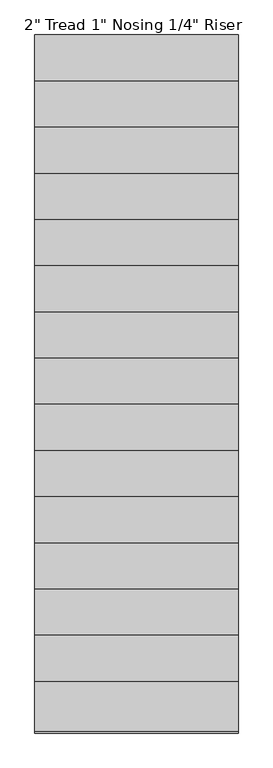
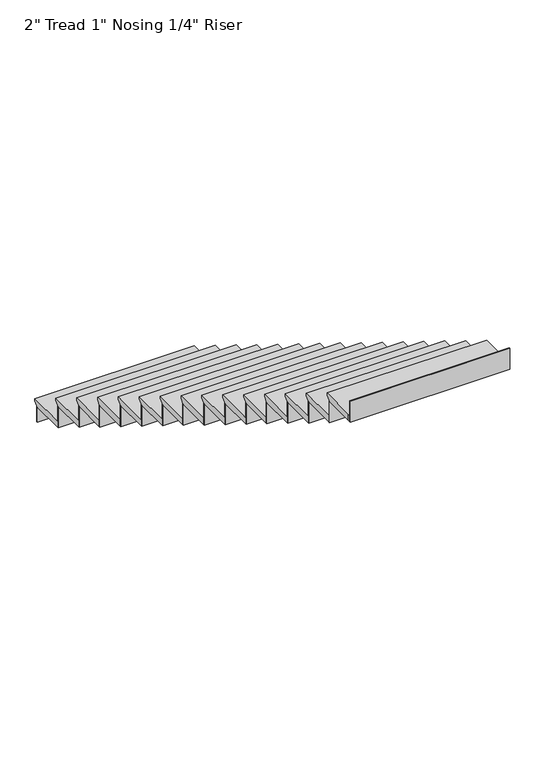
"""IFC4 building model written with IfcOpenShell, lengths in millimetres: stair flight geometry."""

from ifc_helpers import new_model, si_unit, origin, place, context, project, spatial, faceted_brep, source, transform, mapped, element, save


def stair_flight_ed8aa051(model_context):
    return source(origin(), model_context, "Body", "Brep", [
        faceted_brep([(16217.9060672, 6197.5997725, 4624.07), (16217.9060672, 6197.5997725, 4643.12), (17449.8060671, 6197.5997725, 4643.12), (17449.8060671, 6197.5997725, 4624.07), (16217.9060672, 6172.1997725, 4598.67), (17449.8060671, 6172.1997725, 4598.67), (16217.9060672, 5892.7997725, 4643.12), (17449.8060671, 5892.7997725, 4643.12), (17449.8060671, 6172.1997725, 4592.32), (17449.8060671, 5892.7997725, 4592.32), (16217.9060672, 5892.7997725, 4592.32), (16217.9060672, 6172.1997725, 4592.32)], [[[0, 1, 2, 3]], [[4, 0, 3, 5]], [[2, 1, 6, 7]], [[8, 9, 10, 11]], [[2, 7, 9, 8, 5, 3]], [[8, 11, 4, 5]], [[6, 1, 0, 4, 11, 10]], [[7, 6, 10, 9]]]),
        faceted_brep([(16217.9060672, 6172.1997725, 4592.32), (16217.9060672, 6172.1997725, 4470.4), (16217.9060672, 6165.8497725, 4470.4), (16217.9060672, 6165.8497725, 4592.32), (17449.8060671, 6172.1997725, 4592.32), (17449.8060671, 6165.8497725, 4592.32), (17449.8060671, 6165.8497725, 4470.4), (17449.8060671, 6172.1997725, 4470.4)], [[[0, 1, 2, 3]], [[4, 5, 6, 7]], [[1, 0, 4, 7]], [[2, 1, 7, 6]], [[3, 2, 6, 5]], [[0, 3, 5, 4]]]),
        faceted_brep([(16217.9060672, 5892.7997725, 4765.04), (16217.9060672, 5892.7997725, 4592.32), (16217.9060672, 5886.4497725, 4592.32), (16217.9060672, 5886.4497725, 4765.04), (17449.8060671, 5892.7997725, 4765.04), (17449.8060671, 5886.4497725, 4765.04), (17449.8060671, 5886.4497725, 4592.32), (17449.8060671, 5892.7997725, 4592.32)], [[[0, 1, 2, 3]], [[4, 5, 6, 7]], [[1, 0, 4, 7]], [[2, 1, 7, 6]], [[3, 2, 6, 5]], [[0, 3, 5, 4]]]),
        faceted_brep([(17449.8060671, 5918.1997725, 4815.84), (16217.9060672, 5918.1997725, 4815.84), (16217.9060672, 5613.3997725, 4815.84), (17449.8060671, 5613.3997725, 4815.84), (17449.8060671, 5892.7997725, 4765.04), (17449.8060671, 5613.3997725, 4765.04), (16217.9060672, 5613.3997725, 4765.04), (16217.9060672, 5892.7997725, 4765.04), (17449.8060671, 5892.7997725, 4771.39), (17449.8060671, 5918.1997725, 4796.79), (16217.9060672, 5892.7997725, 4771.39), (16217.9060672, 5918.1997725, 4796.79)], [[[0, 1, 2, 3]], [[4, 5, 6, 7]], [[0, 3, 5, 4, 8, 9]], [[4, 7, 10, 8]], [[2, 1, 11, 10, 7, 6]], [[3, 2, 6, 5]], [[11, 1, 0, 9]], [[10, 11, 9, 8]]]),
        faceted_brep([(16217.9060672, 5613.3997725, 4937.76), (16217.9060672, 5613.3997725, 4765.04), (16217.9060672, 5607.0497725, 4765.04), (16217.9060672, 5607.0497725, 4937.76), (17449.8060671, 5613.3997725, 4937.76), (17449.8060671, 5607.0497725, 4937.76), (17449.8060671, 5607.0497725, 4765.04), (17449.8060671, 5613.3997725, 4765.04)], [[[0, 1, 2, 3]], [[4, 5, 6, 7]], [[1, 0, 4, 7]], [[2, 1, 7, 6]], [[3, 2, 6, 5]], [[0, 3, 5, 4]]]),
        faceted_brep([(17449.8060671, 5638.7997725, 4988.56), (16217.9060672, 5638.7997725, 4988.56), (16217.9060672, 5333.9997725, 4988.56), (17449.8060671, 5333.9997725, 4988.56), (17449.8060671, 5613.3997725, 4937.76), (17449.8060671, 5333.9997725, 4937.76), (16217.9060672, 5333.9997725, 4937.76), (16217.9060672, 5613.3997725, 4937.76), (17449.8060671, 5613.3997725, 4944.11), (17449.8060671, 5638.7997725, 4969.51), (16217.9060672, 5613.3997725, 4944.11), (16217.9060672, 5638.7997725, 4969.51)], [[[0, 1, 2, 3]], [[4, 5, 6, 7]], [[0, 3, 5, 4, 8, 9]], [[4, 7, 10, 8]], [[2, 1, 11, 10, 7, 6]], [[3, 2, 6, 5]], [[11, 1, 0, 9]], [[10, 11, 9, 8]]]),
        faceted_brep([(16217.9060672, 5333.9997725, 5110.48), (16217.9060672, 5333.9997725, 4937.76), (16217.9060672, 5327.6497725, 4937.76), (16217.9060672, 5327.6497725, 5110.48), (17449.8060671, 5333.9997725, 5110.48), (17449.8060671, 5327.6497725, 5110.48), (17449.8060671, 5327.6497725, 4937.76), (17449.8060671, 5333.9997725, 4937.76)], [[[0, 1, 2, 3]], [[4, 5, 6, 7]], [[1, 0, 4, 7]], [[2, 1, 7, 6]], [[3, 2, 6, 5]], [[0, 3, 5, 4]]]),
        faceted_brep([(17449.8060671, 5359.3997725, 5161.28), (16217.9060672, 5359.3997725, 5161.28), (16217.9060672, 5054.5997725, 5161.28), (17449.8060671, 5054.5997725, 5161.28), (17449.8060671, 5333.9997725, 5110.48), (17449.8060671, 5054.5997725, 5110.48), (16217.9060672, 5054.5997725, 5110.48), (16217.9060672, 5333.9997725, 5110.48), (17449.8060671, 5333.9997725, 5116.83), (17449.8060671, 5359.3997725, 5142.23), (16217.9060672, 5333.9997725, 5116.83), (16217.9060672, 5359.3997725, 5142.23)], [[[0, 1, 2, 3]], [[4, 5, 6, 7]], [[0, 3, 5, 4, 8, 9]], [[4, 7, 10, 8]], [[2, 1, 11, 10, 7, 6]], [[3, 2, 6, 5]], [[11, 1, 0, 9]], [[10, 11, 9, 8]]]),
        faceted_brep([(16217.9060672, 5054.5997725, 5283.2), (16217.9060672, 5054.5997725, 5110.48), (16217.9060672, 5048.2497725, 5110.48), (16217.9060672, 5048.2497725, 5283.2), (17449.8060671, 5054.5997725, 5283.2), (17449.8060671, 5048.2497725, 5283.2), (17449.8060671, 5048.2497725, 5110.48), (17449.8060671, 5054.5997725, 5110.48)], [[[0, 1, 2, 3]], [[4, 5, 6, 7]], [[1, 0, 4, 7]], [[2, 1, 7, 6]], [[3, 2, 6, 5]], [[0, 3, 5, 4]]]),
        faceted_brep([(17449.8060671, 5079.9997725, 5334.0), (16217.9060672, 5079.9997725, 5334.0), (16217.9060672, 4775.1997725, 5334.0), (17449.8060671, 4775.1997725, 5334.0), (17449.8060671, 5054.5997725, 5283.2), (17449.8060671, 4775.1997725, 5283.2), (16217.9060672, 4775.1997725, 5283.2), (16217.9060672, 5054.5997725, 5283.2), (17449.8060671, 5054.5997725, 5289.55), (17449.8060671, 5079.9997725, 5314.95), (16217.9060672, 5054.5997725, 5289.55), (16217.9060672, 5079.9997725, 5314.95)], [[[0, 1, 2, 3]], [[4, 5, 6, 7]], [[0, 3, 5, 4, 8, 9]], [[4, 7, 10, 8]], [[2, 1, 11, 10, 7, 6]], [[3, 2, 6, 5]], [[11, 1, 0, 9]], [[10, 11, 9, 8]]]),
        faceted_brep([(16217.9060672, 4775.1997725, 5455.92), (16217.9060672, 4775.1997725, 5283.2), (16217.9060672, 4768.8497725, 5283.2), (16217.9060672, 4768.8497725, 5455.92), (17449.8060671, 4775.1997725, 5455.92), (17449.8060671, 4768.8497725, 5455.92), (17449.8060671, 4768.8497725, 5283.2), (17449.8060671, 4775.1997725, 5283.2)], [[[0, 1, 2, 3]], [[4, 5, 6, 7]], [[1, 0, 4, 7]], [[2, 1, 7, 6]], [[3, 2, 6, 5]], [[0, 3, 5, 4]]]),
        faceted_brep([(17449.8060671, 4800.5997725, 5506.72), (16217.9060672, 4800.5997725, 5506.72), (16217.9060672, 4495.7997725, 5506.72), (17449.8060671, 4495.7997725, 5506.72), (17449.8060671, 4775.1997725, 5455.92), (17449.8060671, 4495.7997725, 5455.92), (16217.9060672, 4495.7997725, 5455.92), (16217.9060672, 4775.1997725, 5455.92), (17449.8060671, 4775.1997725, 5462.27), (17449.8060671, 4800.5997725, 5487.67), (16217.9060672, 4775.1997725, 5462.27), (16217.9060672, 4800.5997725, 5487.67)], [[[0, 1, 2, 3]], [[4, 5, 6, 7]], [[0, 3, 5, 4, 8, 9]], [[4, 7, 10, 8]], [[2, 1, 11, 10, 7, 6]], [[3, 2, 6, 5]], [[11, 1, 0, 9]], [[10, 11, 9, 8]]]),
        faceted_brep([(16217.9060672, 4495.7997725, 5628.64), (16217.9060672, 4495.7997725, 5455.92), (16217.9060672, 4489.4497725, 5455.92), (16217.9060672, 4489.4497725, 5628.64), (17449.8060671, 4495.7997725, 5628.64), (17449.8060671, 4489.4497725, 5628.64), (17449.8060671, 4489.4497725, 5455.92), (17449.8060671, 4495.7997725, 5455.92)], [[[0, 1, 2, 3]], [[4, 5, 6, 7]], [[1, 0, 4, 7]], [[2, 1, 7, 6]], [[3, 2, 6, 5]], [[0, 3, 5, 4]]]),
        faceted_brep([(17449.8060671, 4521.1997725, 5679.44), (16217.9060672, 4521.1997725, 5679.44), (16217.9060672, 4216.3997725, 5679.44), (17449.8060671, 4216.3997725, 5679.44), (17449.8060671, 4495.7997725, 5628.64), (17449.8060671, 4216.3997725, 5628.64), (16217.9060672, 4216.3997725, 5628.64), (16217.9060672, 4495.7997725, 5628.64), (17449.8060671, 4495.7997725, 5634.99), (17449.8060671, 4521.1997725, 5660.39), (16217.9060672, 4495.7997725, 5634.99), (16217.9060672, 4521.1997725, 5660.39)], [[[0, 1, 2, 3]], [[4, 5, 6, 7]], [[0, 3, 5, 4, 8, 9]], [[4, 7, 10, 8]], [[2, 1, 11, 10, 7, 6]], [[3, 2, 6, 5]], [[11, 1, 0, 9]], [[10, 11, 9, 8]]]),
        faceted_brep([(16217.9060672, 4216.3997725, 5801.36), (16217.9060672, 4216.3997725, 5628.64), (16217.9060672, 4210.0497725, 5628.64), (16217.9060672, 4210.0497725, 5801.36), (17449.8060671, 4216.3997725, 5801.36), (17449.8060671, 4210.0497725, 5801.36), (17449.8060671, 4210.0497725, 5628.64), (17449.8060671, 4216.3997725, 5628.64)], [[[0, 1, 2, 3]], [[4, 5, 6, 7]], [[1, 0, 4, 7]], [[2, 1, 7, 6]], [[3, 2, 6, 5]], [[0, 3, 5, 4]]]),
        faceted_brep([(17449.8060671, 4241.7997725, 5852.16), (16217.9060672, 4241.7997725, 5852.16), (16217.9060672, 3936.9997725, 5852.16), (17449.8060671, 3936.9997725, 5852.16), (17449.8060671, 4216.3997725, 5801.36), (17449.8060671, 3936.9997725, 5801.36), (16217.9060672, 3936.9997725, 5801.36), (16217.9060672, 4216.3997725, 5801.36), (17449.8060671, 4216.3997725, 5807.71), (17449.8060671, 4241.7997725, 5833.11), (16217.9060672, 4216.3997725, 5807.71), (16217.9060672, 4241.7997725, 5833.11)], [[[0, 1, 2, 3]], [[4, 5, 6, 7]], [[0, 3, 5, 4, 8, 9]], [[4, 7, 10, 8]], [[2, 1, 11, 10, 7, 6]], [[3, 2, 6, 5]], [[11, 1, 0, 9]], [[10, 11, 9, 8]]]),
        faceted_brep([(16217.9060672, 3936.9997725, 5974.08), (16217.9060672, 3936.9997725, 5801.36), (16217.9060672, 3930.6497725, 5801.36), (16217.9060672, 3930.6497725, 5974.08), (17449.8060671, 3936.9997725, 5974.08), (17449.8060671, 3930.6497725, 5974.08), (17449.8060671, 3930.6497725, 5801.36), (17449.8060671, 3936.9997725, 5801.36)], [[[0, 1, 2, 3]], [[4, 5, 6, 7]], [[1, 0, 4, 7]], [[2, 1, 7, 6]], [[3, 2, 6, 5]], [[0, 3, 5, 4]]]),
        faceted_brep([(17449.8060671, 3962.3997725, 6024.88), (16217.9060672, 3962.3997725, 6024.88), (16217.9060672, 3657.5997725, 6024.88), (17449.8060671, 3657.5997725, 6024.88), (17449.8060671, 3936.9997725, 5974.08), (17449.8060671, 3657.5997725, 5974.08), (16217.9060672, 3657.5997725, 5974.08), (16217.9060672, 3936.9997725, 5974.08), (17449.8060671, 3936.9997725, 5980.43), (17449.8060671, 3962.3997725, 6005.83), (16217.9060672, 3936.9997725, 5980.43), (16217.9060672, 3962.3997725, 6005.83)], [[[0, 1, 2, 3]], [[4, 5, 6, 7]], [[0, 3, 5, 4, 8, 9]], [[4, 7, 10, 8]], [[2, 1, 11, 10, 7, 6]], [[3, 2, 6, 5]], [[11, 1, 0, 9]], [[10, 11, 9, 8]]]),
        faceted_brep([(16217.9060672, 3657.5997725, 6146.8), (16217.9060672, 3657.5997725, 5974.08), (16217.9060672, 3651.2497725, 5974.08), (16217.9060672, 3651.2497725, 6146.8), (17449.8060671, 3657.5997725, 6146.8), (17449.8060671, 3651.2497725, 6146.8), (17449.8060671, 3651.2497725, 5974.08), (17449.8060671, 3657.5997725, 5974.08)], [[[0, 1, 2, 3]], [[4, 5, 6, 7]], [[1, 0, 4, 7]], [[2, 1, 7, 6]], [[3, 2, 6, 5]], [[0, 3, 5, 4]]]),
        faceted_brep([(17449.8060671, 3682.9997725, 6197.6), (16217.9060672, 3682.9997725, 6197.6), (16217.9060672, 3378.1997725, 6197.6), (17449.8060671, 3378.1997725, 6197.6), (17449.8060671, 3657.5997725, 6146.8), (17449.8060671, 3378.1997725, 6146.8), (16217.9060672, 3378.1997725, 6146.8), (16217.9060672, 3657.5997725, 6146.8), (17449.8060671, 3657.5997725, 6153.15), (17449.8060671, 3682.9997725, 6178.55), (16217.9060672, 3657.5997725, 6153.15), (16217.9060672, 3682.9997725, 6178.55)], [[[0, 1, 2, 3]], [[4, 5, 6, 7]], [[0, 3, 5, 4, 8, 9]], [[4, 7, 10, 8]], [[2, 1, 11, 10, 7, 6]], [[3, 2, 6, 5]], [[11, 1, 0, 9]], [[10, 11, 9, 8]]]),
        faceted_brep([(16217.9060672, 3378.1997725, 6319.52), (16217.9060672, 3378.1997725, 6146.8), (16217.9060672, 3371.8497725, 6146.8), (16217.9060672, 3371.8497725, 6319.52), (17449.8060671, 3378.1997725, 6319.52), (17449.8060671, 3371.8497725, 6319.52), (17449.8060671, 3371.8497725, 6146.8), (17449.8060671, 3378.1997725, 6146.8)], [[[0, 1, 2, 3]], [[4, 5, 6, 7]], [[1, 0, 4, 7]], [[2, 1, 7, 6]], [[3, 2, 6, 5]], [[0, 3, 5, 4]]]),
        faceted_brep([(17449.8060671, 3403.5997725, 6370.32), (16217.9060672, 3403.5997725, 6370.32), (16217.9060672, 3098.7997725, 6370.32), (17449.8060671, 3098.7997725, 6370.32), (17449.8060671, 3378.1997725, 6319.52), (17449.8060671, 3098.7997725, 6319.52), (16217.9060672, 3098.7997725, 6319.52), (16217.9060672, 3378.1997725, 6319.52), (17449.8060671, 3378.1997725, 6325.87), (17449.8060671, 3403.5997725, 6351.27), (16217.9060672, 3378.1997725, 6325.87), (16217.9060672, 3403.5997725, 6351.27)], [[[0, 1, 2, 3]], [[4, 5, 6, 7]], [[0, 3, 5, 4, 8, 9]], [[4, 7, 10, 8]], [[2, 1, 11, 10, 7, 6]], [[3, 2, 6, 5]], [[11, 1, 0, 9]], [[10, 11, 9, 8]]]),
        faceted_brep([(16217.9060672, 3098.7997725, 6492.24), (16217.9060672, 3098.7997725, 6319.52), (16217.9060672, 3092.4497725, 6319.52), (16217.9060672, 3092.4497725, 6492.24), (17449.8060671, 3098.7997725, 6492.24), (17449.8060671, 3092.4497725, 6492.24), (17449.8060671, 3092.4497725, 6319.52), (17449.8060671, 3098.7997725, 6319.52)], [[[0, 1, 2, 3]], [[4, 5, 6, 7]], [[1, 0, 4, 7]], [[2, 1, 7, 6]], [[3, 2, 6, 5]], [[0, 3, 5, 4]]]),
        faceted_brep([(17449.8060671, 3124.1997725, 6543.04), (16217.9060672, 3124.1997725, 6543.04), (16217.9060672, 2819.3997725, 6543.04), (17449.8060671, 2819.3997725, 6543.04), (17449.8060671, 3098.7997725, 6492.24), (17449.8060671, 2819.3997725, 6492.24), (16217.9060672, 2819.3997725, 6492.24), (16217.9060672, 3098.7997725, 6492.24), (17449.8060671, 3098.7997725, 6498.59), (17449.8060671, 3124.1997725, 6523.99), (16217.9060672, 3098.7997725, 6498.59), (16217.9060672, 3124.1997725, 6523.99)], [[[0, 1, 2, 3]], [[4, 5, 6, 7]], [[0, 3, 5, 4, 8, 9]], [[4, 7, 10, 8]], [[2, 1, 11, 10, 7, 6]], [[3, 2, 6, 5]], [[11, 1, 0, 9]], [[10, 11, 9, 8]]]),
        faceted_brep([(16217.9060672, 2819.3997725, 6664.96), (16217.9060672, 2819.3997725, 6492.24), (16217.9060672, 2813.0497725, 6492.24), (16217.9060672, 2813.0497725, 6664.96), (17449.8060671, 2819.3997725, 6664.96), (17449.8060671, 2813.0497725, 6664.96), (17449.8060671, 2813.0497725, 6492.24), (17449.8060671, 2819.3997725, 6492.24)], [[[0, 1, 2, 3]], [[4, 5, 6, 7]], [[1, 0, 4, 7]], [[2, 1, 7, 6]], [[3, 2, 6, 5]], [[0, 3, 5, 4]]]),
        faceted_brep([(17449.8060671, 2844.7997725, 6715.76), (16217.9060672, 2844.7997725, 6715.76), (16217.9060672, 2539.9997725, 6715.76), (17449.8060671, 2539.9997725, 6715.76), (17449.8060671, 2819.3997725, 6664.96), (17449.8060671, 2539.9997725, 6664.96), (16217.9060672, 2539.9997725, 6664.96), (16217.9060672, 2819.3997725, 6664.96), (17449.8060671, 2819.3997725, 6671.31), (17449.8060671, 2844.7997725, 6696.71), (16217.9060672, 2819.3997725, 6671.31), (16217.9060672, 2844.7997725, 6696.71)], [[[0, 1, 2, 3]], [[4, 5, 6, 7]], [[0, 3, 5, 4, 8, 9]], [[4, 7, 10, 8]], [[2, 1, 11, 10, 7, 6]], [[3, 2, 6, 5]], [[11, 1, 0, 9]], [[10, 11, 9, 8]]]),
        faceted_brep([(16217.9060672, 2539.9997725, 6837.68), (16217.9060672, 2539.9997725, 6664.96), (16217.9060672, 2533.6497725, 6664.96), (16217.9060672, 2533.6497725, 6837.68), (17449.8060671, 2539.9997725, 6837.68), (17449.8060671, 2533.6497725, 6837.68), (17449.8060671, 2533.6497725, 6664.96), (17449.8060671, 2539.9997725, 6664.96)], [[[0, 1, 2, 3]], [[4, 5, 6, 7]], [[1, 0, 4, 7]], [[2, 1, 7, 6]], [[3, 2, 6, 5]], [[0, 3, 5, 4]]]),
        faceted_brep([(17449.8060671, 2565.3997725, 6888.48), (16217.9060672, 2565.3997725, 6888.48), (16217.9060672, 2260.5997725, 6888.48), (17449.8060671, 2260.5997725, 6888.48), (17449.8060671, 2539.9997725, 6837.68), (17449.8060671, 2260.5997725, 6837.68), (16217.9060672, 2260.5997725, 6837.68), (16217.9060672, 2539.9997725, 6837.68), (17449.8060671, 2539.9997725, 6844.03), (17449.8060671, 2565.3997725, 6869.43), (16217.9060672, 2539.9997725, 6844.03), (16217.9060672, 2565.3997725, 6869.43)], [[[0, 1, 2, 3]], [[4, 5, 6, 7]], [[0, 3, 5, 4, 8, 9]], [[4, 7, 10, 8]], [[2, 1, 11, 10, 7, 6]], [[3, 2, 6, 5]], [[11, 1, 0, 9]], [[10, 11, 9, 8]]]),
        faceted_brep([(16217.9060672, 2260.5997725, 7010.4), (16217.9060672, 2260.5997725, 6837.68), (16217.9060672, 2254.2497725, 6837.68), (16217.9060672, 2254.2497725, 7010.4), (17449.8060671, 2260.5997725, 7010.4), (17449.8060671, 2254.2497725, 7010.4), (17449.8060671, 2254.2497725, 6837.68), (17449.8060671, 2260.5997725, 6837.68)], [[[0, 1, 2, 3]], [[4, 5, 6, 7]], [[1, 0, 4, 7]], [[2, 1, 7, 6]], [[3, 2, 6, 5]], [[0, 3, 5, 4]]]),
        faceted_brep([(16217.9060672, 1981.1997725, 7183.12), (16217.9060672, 1981.1997725, 7010.4), (16217.9060672, 1974.8497725, 7010.4), (16217.9060672, 1974.8497725, 7183.12), (17449.8060671, 1981.1997725, 7183.12), (17449.8060671, 1974.8497725, 7183.12), (17449.8060671, 1974.8497725, 7010.4), (17449.8060671, 1981.1997725, 7010.4)], [[[0, 1, 2, 3]], [[4, 5, 6, 7]], [[1, 0, 4, 7]], [[2, 1, 7, 6]], [[3, 2, 6, 5]], [[0, 3, 5, 4]]]),
        faceted_brep([(17449.8060671, 2285.9997725, 7061.2), (16217.9060672, 2285.9997725, 7061.2), (16217.9060672, 2006.5997725, 7061.2), (16217.9060672, 1981.1997725, 7061.2), (17449.8060671, 1981.1997725, 7061.2), (17449.8060671, 2260.5997725, 7010.4), (17449.8060671, 1981.1997725, 7010.4), (16217.9060672, 1981.1997725, 7010.4), (16217.9060672, 2006.5997725, 7010.4), (16217.9060672, 2260.5997725, 7010.4), (17449.8060671, 2260.5997725, 7016.75), (17449.8060671, 2285.9997725, 7042.15), (16217.9060672, 2260.5997725, 7016.75), (16217.9060672, 2285.9997725, 7042.15)], [[[0, 1, 2, 3, 4]], [[5, 6, 7, 8, 9]], [[0, 4, 6, 5, 10, 11]], [[5, 9, 12, 10]], [[2, 1, 13, 12, 9, 8]], [[3, 2, 8, 7]], [[4, 3, 7, 6]], [[13, 1, 0, 11]], [[12, 13, 11, 10]]]),
    ])


if __name__ == "__main__":
    model = new_model("IFC4")
    model_context = context("Model", 3, world=origin())
    ifc_project = project(units=[si_unit("LENGTHUNIT", "METRE", prefix="MILLI")], contexts=[model_context])
    site = spatial("IfcSite", under=ifc_project)
    building = spatial("IfcBuilding", under=site)
    placement = place(None, origin())
    stair_flight_shape = stair_flight_ed8aa051(model_context)
    element("IfcStairFlight", 1, ObjectType="2\" Tread 1\" Nosing 1/4\" Riser", at=placement, inside=building, context=model_context, shape_type="MappedRepresentation", body=[
        mapped(stair_flight_shape, transform((0.0, 0.0, 0.0), x_axis=(1.0, 0.0, 0.0), y_axis=(0.0, 1.0, 0.0), z_axis=(0.0, 0.0, 1.0))),
    ])
    save(model, "model.ifc")
